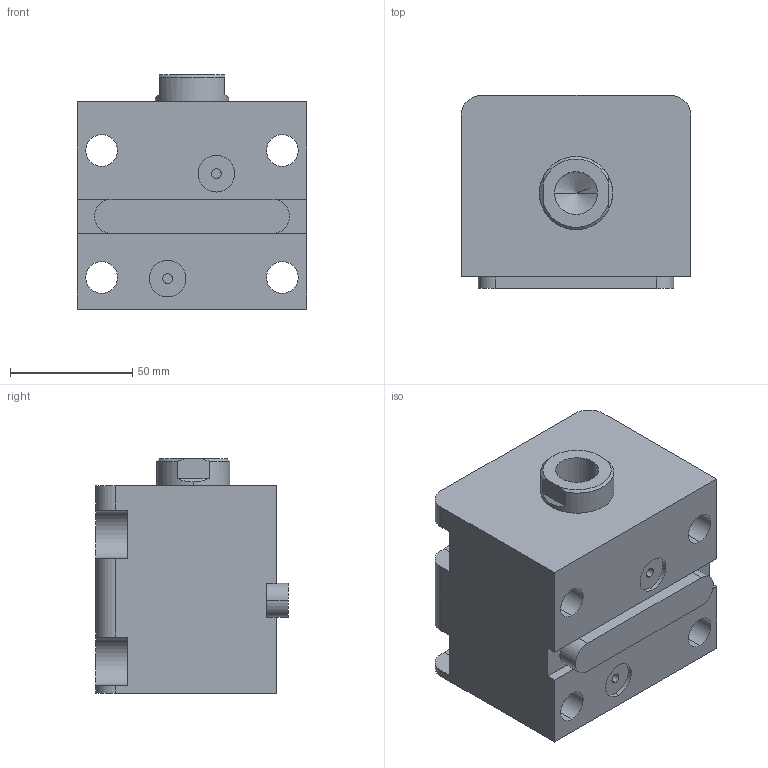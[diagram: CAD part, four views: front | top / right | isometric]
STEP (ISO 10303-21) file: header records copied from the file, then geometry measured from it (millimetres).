
FILE_DESCRIPTION (( 'STEP AP203' ), '1' );
FILE_NAME ('HTB-LAM50-25N.STEP', '2023-03-20T00:45:56', ( '微软用户' ), ( '微软中国' ), 'SwSTEP 2.0', 'SolidWorks 2012', '' );
FILE_SCHEMA (( 'CONFIG_CONTROL_DESIGN' ));
Length unit declared in the file: millimetre
Products named in the file (4): HTB-LAM50-25N; HTB-LWM50-瑩; HTB-LAM50-25N活塞杆; HTB-LAM50-25掛极
Assembly tree (3 placements, depth 2):
  HTB-LAM50-25N
    HTB-LAM50-25掛极
    HTB-LAM50-25N活塞杆
    HTB-LWM50-瑩
Bounding box: 94 x 79 x 96 mm (x, y, z)
Volume: 512079 mm3; surface area: 84343.1 mm2
Topology: 3 solids, 3 shells, 86 faces, 213 edges, 139 vertices
Faces by surface type: cylinder 39, plane 39, torus 4, cone 4
Entity records: 3001 total; most frequent: DIRECTION 475, CARTESIAN_POINT 470, ORIENTED_EDGE 422, EDGE_CURVE 211, AXIS2_PLACEMENT_3D 180, VERTEX_POINT 139, VECTOR 115, LINE 115
